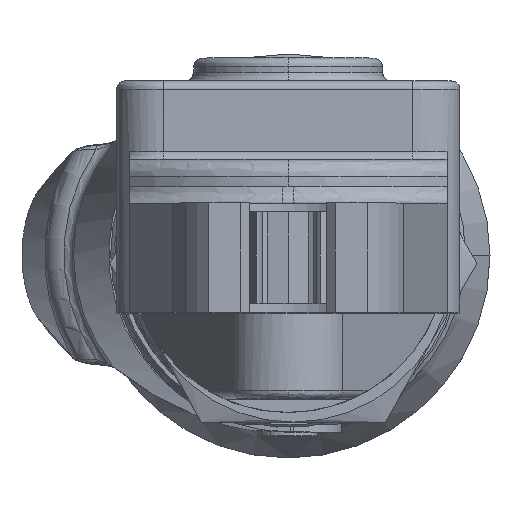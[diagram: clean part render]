
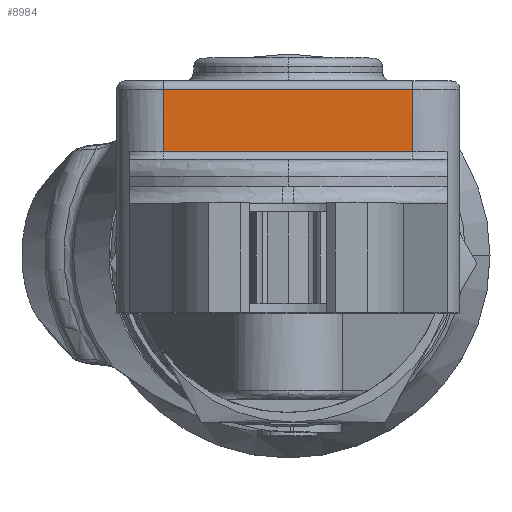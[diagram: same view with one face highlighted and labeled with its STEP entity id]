
A CAD part, top view. The second image highlights one B-rep face of the part: STEP entity #8984.
In plain terms, the highlighted planar face has unit normal (0, 0, 1).
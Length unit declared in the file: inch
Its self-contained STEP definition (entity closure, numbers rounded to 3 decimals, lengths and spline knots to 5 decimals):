
#514 = CARTESIAN_POINT ( 'NONE',  ( 0.57087, 0.46337, 2.85143 ) ) ;
#1285 = LINE ( 'NONE', #49811, #62695 ) ;
#5607 = EDGE_CURVE ( 'NONE', #51918, #16995, #1285, .T. ) ;
#8984 = ADVANCED_FACE ( 'NONE', ( #39237 ), #33688, .F. ) ;
#16995 = VERTEX_POINT ( 'NONE', #76629 ) ;
#18044 = VERTEX_POINT ( 'NONE', #64927 ) ;
#18386 = VECTOR ( 'NONE', #51868, 39.37008 ) ;
#19618 = CARTESIAN_POINT ( 'NONE',  ( -0.57087, 0.74763, 2.85143 ) ) ;
#25980 = EDGE_CURVE ( 'NONE', #74290, #18044, #42723, .T. ) ;
#30199 = DIRECTION ( 'NONE',  ( 0., 0., -1. ) ) ;
#30280 = DIRECTION ( 'NONE',  ( 0., -1., 0. ) ) ;
#30535 = CARTESIAN_POINT ( 'NONE',  ( 0.57087, 0.787, 2.85143 ) ) ;
#32410 = ORIENTED_EDGE ( 'NONE', *, *, #58191, .F. ) ;
#33688 = PLANE ( 'NONE',  #34217 ) ;
#34217 = AXIS2_PLACEMENT_3D ( 'NONE', #30535, #30199, #30280 ) ;
#39237 = FACE_OUTER_BOUND ( 'NONE', #57471, .T. ) ;
#42723 = LINE ( 'NONE', #52476, #18386 ) ;
#49113 = ORIENTED_EDGE ( 'NONE', *, *, #25980, .F. ) ;
#49583 = LINE ( 'NONE', #75690, #65317 ) ;
#49811 = CARTESIAN_POINT ( 'NONE',  ( 0.57087, 0.74763, 2.85143 ) ) ;
#51868 = DIRECTION ( 'NONE',  ( -1., 0., 0. ) ) ;
#51918 = VERTEX_POINT ( 'NONE', #19618 ) ;
#52390 = VECTOR ( 'NONE', #72412, 39.37008 ) ;
#52476 = CARTESIAN_POINT ( 'NONE',  ( 0.57087, 0.46337, 2.85143 ) ) ;
#54219 = LINE ( 'NONE', #54546, #52390 ) ;
#54546 = CARTESIAN_POINT ( 'NONE',  ( -0.57087, 0.787, 2.85143 ) ) ;
#57471 = EDGE_LOOP ( 'NONE', ( #64945, #32410, #49113, #65256 ) ) ;
#58191 = EDGE_CURVE ( 'NONE', #18044, #51918, #54219, .T. ) ;
#60003 = DIRECTION ( 'NONE',  ( 1., 0., 0. ) ) ;
#62695 = VECTOR ( 'NONE', #60003, 39.37008 ) ;
#64732 = DIRECTION ( 'NONE',  ( 0., -1., 0. ) ) ;
#64823 = EDGE_CURVE ( 'NONE', #16995, #74290, #49583, .T. ) ;
#64927 = CARTESIAN_POINT ( 'NONE',  ( -0.57087, 0.46337, 2.85143 ) ) ;
#64945 = ORIENTED_EDGE ( 'NONE', *, *, #5607, .F. ) ;
#65256 = ORIENTED_EDGE ( 'NONE', *, *, #64823, .F. ) ;
#65317 = VECTOR ( 'NONE', #64732, 39.37008 ) ;
#72412 = DIRECTION ( 'NONE',  ( 0., 1., 0. ) ) ;
#74290 = VERTEX_POINT ( 'NONE', #514 ) ;
#75690 = CARTESIAN_POINT ( 'NONE',  ( 0.57087, 0.787, 2.85143 ) ) ;
#76629 = CARTESIAN_POINT ( 'NONE',  ( 0.57087, 0.74763, 2.85143 ) ) ;
